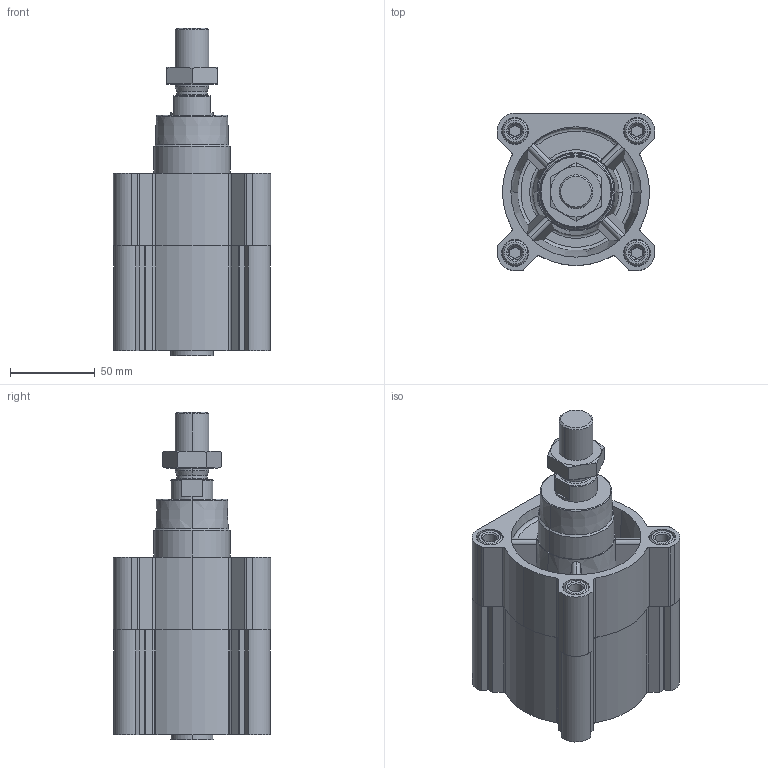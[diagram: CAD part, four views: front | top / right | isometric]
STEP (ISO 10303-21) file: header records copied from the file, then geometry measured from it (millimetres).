
FILE_DESCRIPTION (( 'STEP AP203' ), '1' );
FILE_NAME ('CPME80-20.STEP', '2022-11-25T19:28:38', ( '' ), ( '' ), 'SwSTEP 2.0', 'SolidWorks 2019', '' );
FILE_SCHEMA (( 'CONFIG_CONTROL_DESIGN' ));
Length unit declared in the file: millimetre
Products named in the file (1): CPME80-20
Bounding box: 93 x 93 x 193.6 mm (x, y, z)
Volume: 559686.2 mm3; surface area: 127061 mm2
Topology: 3 solids, 3 shells, 340 faces, 882 edges, 566 vertices
Faces by surface type: cylinder 134, plane 132, cone 58, torus 16
Entity records: 11964 total; most frequent: CARTESIAN_POINT 3469, DIRECTION 1798, ORIENTED_EDGE 1764, EDGE_CURVE 882, AXIS2_PLACEMENT_3D 680, VERTEX_POINT 566, LINE 438, VECTOR 438
